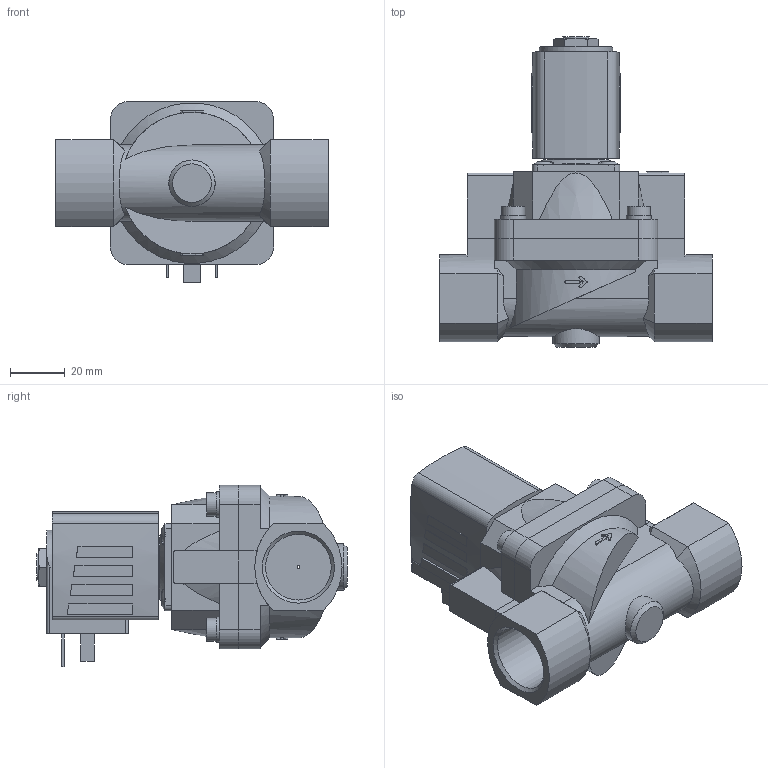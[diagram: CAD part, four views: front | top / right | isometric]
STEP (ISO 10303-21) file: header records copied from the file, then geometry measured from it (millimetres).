
FILE_DESCRIPTION(/* description */ ('STEP AP214'),/* implementation_level */ '2;1');
FILE_NAME(/* name */ '5404-343184-Servo-assisted_2_2_way_piston_valve',/* time_stamp */ '2024-02-26T23:14:22+01:00',/* author */ ('License CC BY-ND 4.0'),/* organization */ ('CADENAS'),/* preprocessor_version */ 'ST-DEVELOPER v19.3',/* originating_system */ 'PARTsolutions',/* authorisation */ ' ');
FILE_SCHEMA (('AUTOMOTIVE_DESIGN {1 0 10303 214 3 1 1}'));
Length unit declared in the file: millimetre
Products named in the file (4): 5404-343184-Servo-assisted 2/2 way piston valve; 5282g-8520MS000-2/2-Wege-Magnetventil_Gehaeuse; 5282d-20MSAU3N-2/2-Wege-Magnetventil_Deckel; AC10ex-5NA38-Plan-Coil
Assembly tree (3 placements, depth 2):
  5404-343184-Servo-assisted 2/2 way piston valve
    5282g-8520MS000-2/2-Wege-Magnetventil_Gehaeuse
    5282d-20MSAU3N-2/2-Wege-Magnetventil_Deckel
    AC10ex-5NA38-Plan-Coil
Bounding box: 100 x 114.1 x 66.5 mm (x, y, z)
Volume: 231359.9 mm3; surface area: 45878.1 mm2
Topology: 3 solids, 3 shells, 301 faces, 748 edges, 493 vertices
Faces by surface type: plane 187, cylinder 84, cone 25, torus 5
Full cylindrical faces by diameter (mm): 1 x1, 2.013 x1, 4 x4, 7.5 x4, 7.6 x4, 8.5 x4, 9.2 x4, 9.74 x1, 17 x1, 21 x1, 24.117 x2
Entity records: 9582 total; most frequent: CARTESIAN_POINT 1771, DIRECTION 1470, ORIENTED_EDGE 1402, EDGE_CURVE 701, AXIS2_PLACEMENT_3D 527, VERTEX_POINT 483, LINE 416, VECTOR 416
